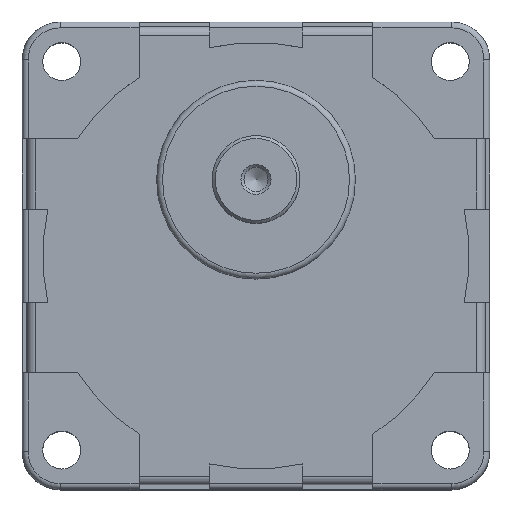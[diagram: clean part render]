
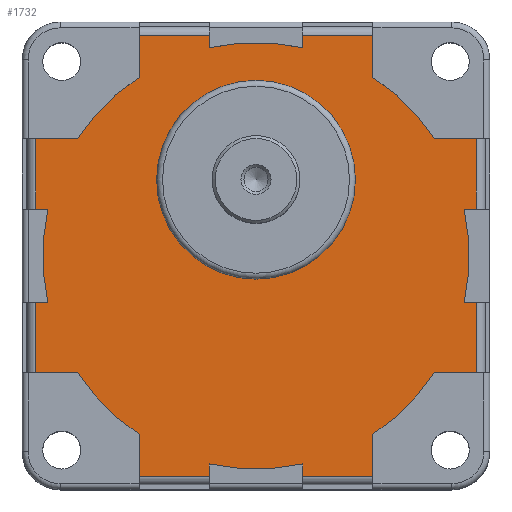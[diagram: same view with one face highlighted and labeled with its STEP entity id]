
A CAD part, top view. The second image highlights one B-rep face of the part: STEP entity #1732.
In plain terms, the highlighted planar face has unit normal (0, 0, 1).
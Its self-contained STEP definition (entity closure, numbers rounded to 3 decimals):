
#25=LINE('',#2626,#188);
#29=LINE('',#2638,#192);
#31=LINE('',#2644,#194);
#32=LINE('',#2648,#195);
#33=LINE('',#2650,#196);
#34=LINE('',#2652,#197);
#35=LINE('',#2656,#198);
#36=LINE('',#2658,#199);
#37=LINE('',#2660,#200);
#38=LINE('',#2664,#201);
#39=LINE('',#2666,#202);
#40=LINE('',#2668,#203);
#41=LINE('',#2672,#204);
#42=LINE('',#2674,#205);
#43=LINE('',#2676,#206);
#44=LINE('',#2680,#207);
#45=LINE('',#2682,#208);
#46=LINE('',#2684,#209);
#47=LINE('',#2688,#210);
#48=LINE('',#2690,#211);
#49=LINE('',#2692,#212);
#50=LINE('',#2695,#213);
#51=LINE('',#2697,#214);
#52=LINE('',#2700,#215);
#188=VECTOR('',#2095,12.);
#192=VECTOR('',#2105,12.);
#194=VECTOR('',#2111,7.167);
#195=VECTOR('',#2114,7.167);
#196=VECTOR('',#2115,12.);
#197=VECTOR('',#2116,2.088);
#198=VECTOR('',#2119,2.088);
#199=VECTOR('',#2120,12.);
#200=VECTOR('',#2121,7.167);
#201=VECTOR('',#2124,7.167);
#202=VECTOR('',#2125,12.);
#203=VECTOR('',#2126,2.088);
#204=VECTOR('',#2129,2.088);
#205=VECTOR('',#2130,12.);
#206=VECTOR('',#2131,7.167);
#207=VECTOR('',#2134,7.167);
#208=VECTOR('',#2135,12.);
#209=VECTOR('',#2136,2.088);
#210=VECTOR('',#2139,2.088);
#211=VECTOR('',#2140,12.);
#212=VECTOR('',#2141,7.167);
#213=VECTOR('',#2144,7.167);
#214=VECTOR('',#2145,2.088);
#215=VECTOR('',#2148,2.088);
#352=PLANE('',#1861);
#454=FACE_BOUND('',#601,.T.);
#482=FACE_OUTER_BOUND('',#600,.T.);
#600=EDGE_LOOP('',(#1257,#1258,#1259,#1260,#1261,#1262,#1263,#1264,#1265,
#1266,#1267,#1268,#1269,#1270,#1271,#1272,#1273,#1274,#1275,#1276,#1277,
#1278,#1279,#1280,#1281,#1282,#1283,#1284,#1285,#1286,#1287,#1288));
#601=EDGE_LOOP('',(#1289));
#712=CIRCLE('',#1852,17.);
#717=CIRCLE('',#1862,36.5);
#718=CIRCLE('',#1863,36.5);
#719=CIRCLE('',#1864,36.5);
#720=CIRCLE('',#1865,36.5);
#721=CIRCLE('',#1866,36.5);
#722=CIRCLE('',#1867,36.5);
#723=CIRCLE('',#1868,36.5);
#724=CIRCLE('',#1869,36.5);
#805=VERTEX_POINT('',#2615);
#806=VERTEX_POINT('',#2619);
#809=VERTEX_POINT('',#2624);
#813=VERTEX_POINT('',#2635);
#814=VERTEX_POINT('',#2637);
#816=VERTEX_POINT('',#2643);
#817=VERTEX_POINT('',#2645);
#818=VERTEX_POINT('',#2647);
#819=VERTEX_POINT('',#2649);
#820=VERTEX_POINT('',#2651);
#821=VERTEX_POINT('',#2653);
#822=VERTEX_POINT('',#2655);
#823=VERTEX_POINT('',#2657);
#824=VERTEX_POINT('',#2659);
#825=VERTEX_POINT('',#2661);
#826=VERTEX_POINT('',#2663);
#827=VERTEX_POINT('',#2665);
#828=VERTEX_POINT('',#2667);
#829=VERTEX_POINT('',#2669);
#830=VERTEX_POINT('',#2671);
#831=VERTEX_POINT('',#2673);
#832=VERTEX_POINT('',#2675);
#833=VERTEX_POINT('',#2677);
#834=VERTEX_POINT('',#2679);
#835=VERTEX_POINT('',#2681);
#836=VERTEX_POINT('',#2683);
#837=VERTEX_POINT('',#2685);
#838=VERTEX_POINT('',#2687);
#839=VERTEX_POINT('',#2689);
#840=VERTEX_POINT('',#2691);
#841=VERTEX_POINT('',#2693);
#842=VERTEX_POINT('',#2696);
#843=VERTEX_POINT('',#2698);
#978=EDGE_CURVE('',#805,#805,#712,.T.);
#982=EDGE_CURVE('',#809,#806,#25,.T.);
#987=EDGE_CURVE('',#813,#814,#29,.T.);
#990=EDGE_CURVE('',#809,#816,#31,.T.);
#991=EDGE_CURVE('',#817,#816,#717,.T.);
#992=EDGE_CURVE('',#818,#817,#32,.T.);
#993=EDGE_CURVE('',#819,#818,#33,.T.);
#994=EDGE_CURVE('',#820,#819,#34,.T.);
#995=EDGE_CURVE('',#821,#820,#718,.T.);
#996=EDGE_CURVE('',#821,#822,#35,.T.);
#997=EDGE_CURVE('',#823,#822,#36,.T.);
#998=EDGE_CURVE('',#823,#824,#37,.T.);
#999=EDGE_CURVE('',#825,#824,#719,.T.);
#1000=EDGE_CURVE('',#826,#825,#38,.T.);
#1001=EDGE_CURVE('',#827,#826,#39,.T.);
#1002=EDGE_CURVE('',#828,#827,#40,.T.);
#1003=EDGE_CURVE('',#829,#828,#720,.T.);
#1004=EDGE_CURVE('',#829,#830,#41,.T.);
#1005=EDGE_CURVE('',#831,#830,#42,.T.);
#1006=EDGE_CURVE('',#831,#832,#43,.T.);
#1007=EDGE_CURVE('',#833,#832,#721,.T.);
#1008=EDGE_CURVE('',#834,#833,#44,.T.);
#1009=EDGE_CURVE('',#835,#834,#45,.T.);
#1010=EDGE_CURVE('',#836,#835,#46,.T.);
#1011=EDGE_CURVE('',#837,#836,#722,.T.);
#1012=EDGE_CURVE('',#837,#838,#47,.T.);
#1013=EDGE_CURVE('',#839,#838,#48,.T.);
#1014=EDGE_CURVE('',#839,#840,#49,.T.);
#1015=EDGE_CURVE('',#841,#840,#723,.T.);
#1016=EDGE_CURVE('',#814,#841,#50,.T.);
#1017=EDGE_CURVE('',#842,#813,#51,.T.);
#1018=EDGE_CURVE('',#843,#842,#724,.T.);
#1019=EDGE_CURVE('',#843,#806,#52,.T.);
#1257=ORIENTED_EDGE('',*,*,#982,.F.);
#1258=ORIENTED_EDGE('',*,*,#990,.T.);
#1259=ORIENTED_EDGE('',*,*,#991,.F.);
#1260=ORIENTED_EDGE('',*,*,#992,.F.);
#1261=ORIENTED_EDGE('',*,*,#993,.F.);
#1262=ORIENTED_EDGE('',*,*,#994,.F.);
#1263=ORIENTED_EDGE('',*,*,#995,.F.);
#1264=ORIENTED_EDGE('',*,*,#996,.T.);
#1265=ORIENTED_EDGE('',*,*,#997,.F.);
#1266=ORIENTED_EDGE('',*,*,#998,.T.);
#1267=ORIENTED_EDGE('',*,*,#999,.F.);
#1268=ORIENTED_EDGE('',*,*,#1000,.F.);
#1269=ORIENTED_EDGE('',*,*,#1001,.F.);
#1270=ORIENTED_EDGE('',*,*,#1002,.F.);
#1271=ORIENTED_EDGE('',*,*,#1003,.F.);
#1272=ORIENTED_EDGE('',*,*,#1004,.T.);
#1273=ORIENTED_EDGE('',*,*,#1005,.F.);
#1274=ORIENTED_EDGE('',*,*,#1006,.T.);
#1275=ORIENTED_EDGE('',*,*,#1007,.F.);
#1276=ORIENTED_EDGE('',*,*,#1008,.F.);
#1277=ORIENTED_EDGE('',*,*,#1009,.F.);
#1278=ORIENTED_EDGE('',*,*,#1010,.F.);
#1279=ORIENTED_EDGE('',*,*,#1011,.F.);
#1280=ORIENTED_EDGE('',*,*,#1012,.T.);
#1281=ORIENTED_EDGE('',*,*,#1013,.F.);
#1282=ORIENTED_EDGE('',*,*,#1014,.T.);
#1283=ORIENTED_EDGE('',*,*,#1015,.F.);
#1284=ORIENTED_EDGE('',*,*,#1016,.F.);
#1285=ORIENTED_EDGE('',*,*,#987,.F.);
#1286=ORIENTED_EDGE('',*,*,#1017,.F.);
#1287=ORIENTED_EDGE('',*,*,#1018,.F.);
#1288=ORIENTED_EDGE('',*,*,#1019,.T.);
#1289=ORIENTED_EDGE('',*,*,#978,.F.);
#1732=ADVANCED_FACE('',(#482,#454),#352,.T.);
#1852=AXIS2_PLACEMENT_3D('',#2616,#2084,#2085);
#1861=AXIS2_PLACEMENT_3D('',#2642,#2109,#2110);
#1862=AXIS2_PLACEMENT_3D('',#2646,#2112,#2113);
#1863=AXIS2_PLACEMENT_3D('',#2654,#2117,#2118);
#1864=AXIS2_PLACEMENT_3D('',#2662,#2122,#2123);
#1865=AXIS2_PLACEMENT_3D('',#2670,#2127,#2128);
#1866=AXIS2_PLACEMENT_3D('',#2678,#2132,#2133);
#1867=AXIS2_PLACEMENT_3D('',#2686,#2137,#2138);
#1868=AXIS2_PLACEMENT_3D('',#2694,#2142,#2143);
#1869=AXIS2_PLACEMENT_3D('',#2699,#2146,#2147);
#2084=DIRECTION('center_axis',(0.,0.,1.));
#2085=DIRECTION('ref_axis',(-1.,0.,0.));
#2095=DIRECTION('',(0.,-1.,0.));
#2105=DIRECTION('',(0.,-1.,0.));
#2109=DIRECTION('center_axis',(0.,0.,1.));
#2110=DIRECTION('ref_axis',(1.,0.,0.));
#2111=DIRECTION('',(-1.,0.,0.));
#2112=DIRECTION('center_axis',(0.,0.,-1.));
#2113=DIRECTION('ref_axis',(-1.,0.,0.));
#2114=DIRECTION('',(0.,-1.,0.));
#2115=DIRECTION('',(1.,0.,0.));
#2116=DIRECTION('',(0.,1.,0.));
#2117=DIRECTION('center_axis',(0.,0.,-1.));
#2118=DIRECTION('ref_axis',(-1.,0.,0.));
#2119=DIRECTION('',(0.,1.,0.));
#2120=DIRECTION('',(1.,0.,0.));
#2121=DIRECTION('',(0.,-1.,0.));
#2122=DIRECTION('center_axis',(0.,0.,-1.));
#2123=DIRECTION('ref_axis',(-1.,0.,0.));
#2124=DIRECTION('',(1.,0.,0.));
#2125=DIRECTION('',(0.,1.,0.));
#2126=DIRECTION('',(-1.,0.,0.));
#2127=DIRECTION('center_axis',(0.,0.,-1.));
#2128=DIRECTION('ref_axis',(-1.,0.,0.));
#2129=DIRECTION('',(-1.,0.,0.));
#2130=DIRECTION('',(0.,1.,0.));
#2131=DIRECTION('',(1.,0.,0.));
#2132=DIRECTION('center_axis',(0.,0.,-1.));
#2133=DIRECTION('ref_axis',(-1.,0.,0.));
#2134=DIRECTION('',(0.,1.,0.));
#2135=DIRECTION('',(-1.,0.,0.));
#2136=DIRECTION('',(0.,-1.,0.));
#2137=DIRECTION('center_axis',(0.,0.,-1.));
#2138=DIRECTION('ref_axis',(-1.,0.,0.));
#2139=DIRECTION('',(0.,-1.,0.));
#2140=DIRECTION('',(-1.,0.,0.));
#2141=DIRECTION('',(0.,1.,0.));
#2142=DIRECTION('center_axis',(0.,0.,-1.));
#2143=DIRECTION('ref_axis',(-1.,0.,0.));
#2144=DIRECTION('',(-1.,0.,0.));
#2145=DIRECTION('',(1.,0.,0.));
#2146=DIRECTION('center_axis',(0.,0.,-1.));
#2147=DIRECTION('ref_axis',(-1.,0.,0.));
#2148=DIRECTION('',(1.,0.,0.));
#2615=CARTESIAN_POINT('',(17.,13.,40.2));
#2616=CARTESIAN_POINT('Origin',(0.,13.,40.2));
#2619=CARTESIAN_POINT('',(37.7,8.,40.2));
#2624=CARTESIAN_POINT('',(37.7,20.,40.2));
#2626=CARTESIAN_POINT('',(37.7,10.,40.2));
#2635=CARTESIAN_POINT('',(37.7,-8.,40.2));
#2637=CARTESIAN_POINT('',(37.7,-20.,40.2));
#2638=CARTESIAN_POINT('',(37.7,-10.,40.2));
#2642=CARTESIAN_POINT('Origin',(0.,0.,40.2));
#2643=CARTESIAN_POINT('',(30.533,20.,40.2));
#2644=CARTESIAN_POINT('',(30.533,20.,40.2));
#2645=CARTESIAN_POINT('',(20.,30.533,40.2));
#2646=CARTESIAN_POINT('Origin',(0.,0.,40.2));
#2647=CARTESIAN_POINT('',(20.,37.7,40.2));
#2648=CARTESIAN_POINT('',(20.,30.533,40.2));
#2649=CARTESIAN_POINT('',(8.,37.7,40.2));
#2650=CARTESIAN_POINT('',(10.,37.7,40.2));
#2651=CARTESIAN_POINT('',(8.,35.612,40.2));
#2652=CARTESIAN_POINT('',(8.,40.,40.2));
#2653=CARTESIAN_POINT('',(-8.,35.612,40.2));
#2654=CARTESIAN_POINT('Origin',(0.,0.,40.2));
#2655=CARTESIAN_POINT('',(-8.,37.7,40.2));
#2656=CARTESIAN_POINT('',(-8.,40.,40.2));
#2657=CARTESIAN_POINT('',(-20.,37.7,40.2));
#2658=CARTESIAN_POINT('',(-10.,37.7,40.2));
#2659=CARTESIAN_POINT('',(-20.,30.533,40.2));
#2660=CARTESIAN_POINT('',(-20.,30.533,40.2));
#2661=CARTESIAN_POINT('',(-30.533,20.,40.2));
#2662=CARTESIAN_POINT('Origin',(0.,0.,40.2));
#2663=CARTESIAN_POINT('',(-37.7,20.,40.2));
#2664=CARTESIAN_POINT('',(-30.533,20.,40.2));
#2665=CARTESIAN_POINT('',(-37.7,8.,40.2));
#2666=CARTESIAN_POINT('',(-37.7,10.,40.2));
#2667=CARTESIAN_POINT('',(-35.612,8.,40.2));
#2668=CARTESIAN_POINT('',(-40.,8.,40.2));
#2669=CARTESIAN_POINT('',(-35.612,-8.,40.2));
#2670=CARTESIAN_POINT('Origin',(0.,0.,40.2));
#2671=CARTESIAN_POINT('',(-37.7,-8.,40.2));
#2672=CARTESIAN_POINT('',(-40.,-8.,40.2));
#2673=CARTESIAN_POINT('',(-37.7,-20.,40.2));
#2674=CARTESIAN_POINT('',(-37.7,-10.,40.2));
#2675=CARTESIAN_POINT('',(-30.533,-20.,40.2));
#2676=CARTESIAN_POINT('',(-30.533,-20.,40.2));
#2677=CARTESIAN_POINT('',(-20.,-30.533,40.2));
#2678=CARTESIAN_POINT('Origin',(0.,0.,40.2));
#2679=CARTESIAN_POINT('',(-20.,-37.7,40.2));
#2680=CARTESIAN_POINT('',(-20.,-30.533,40.2));
#2681=CARTESIAN_POINT('',(-8.,-37.7,40.2));
#2682=CARTESIAN_POINT('',(-10.,-37.7,40.2));
#2683=CARTESIAN_POINT('',(-8.,-35.612,40.2));
#2684=CARTESIAN_POINT('',(-8.,-40.,40.2));
#2685=CARTESIAN_POINT('',(8.,-35.612,40.2));
#2686=CARTESIAN_POINT('Origin',(0.,0.,40.2));
#2687=CARTESIAN_POINT('',(8.,-37.7,40.2));
#2688=CARTESIAN_POINT('',(8.,-40.,40.2));
#2689=CARTESIAN_POINT('',(20.,-37.7,40.2));
#2690=CARTESIAN_POINT('',(10.,-37.7,40.2));
#2691=CARTESIAN_POINT('',(20.,-30.533,40.2));
#2692=CARTESIAN_POINT('',(20.,-30.533,40.2));
#2693=CARTESIAN_POINT('',(30.533,-20.,40.2));
#2694=CARTESIAN_POINT('Origin',(0.,0.,40.2));
#2695=CARTESIAN_POINT('',(30.533,-20.,40.2));
#2696=CARTESIAN_POINT('',(35.612,-8.,40.2));
#2697=CARTESIAN_POINT('',(40.,-8.,40.2));
#2698=CARTESIAN_POINT('',(35.612,8.,40.2));
#2699=CARTESIAN_POINT('Origin',(0.,0.,40.2));
#2700=CARTESIAN_POINT('',(40.,8.,40.2));
